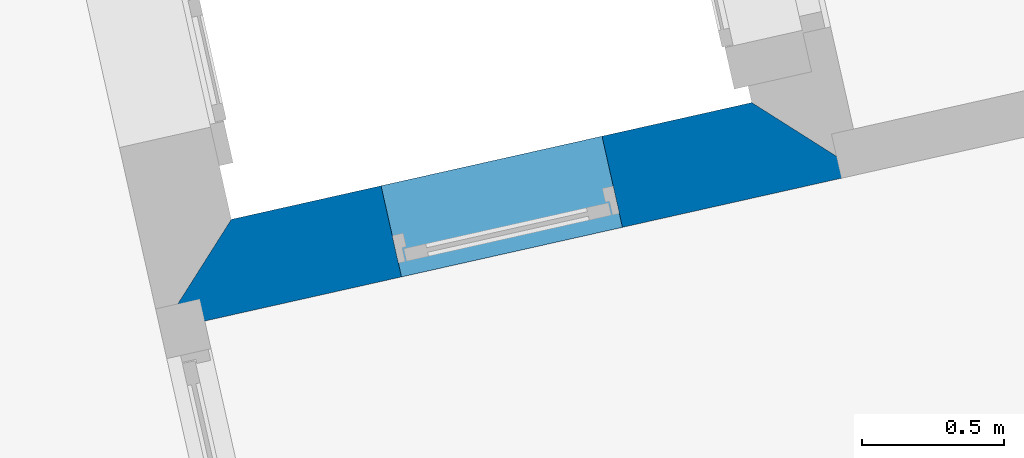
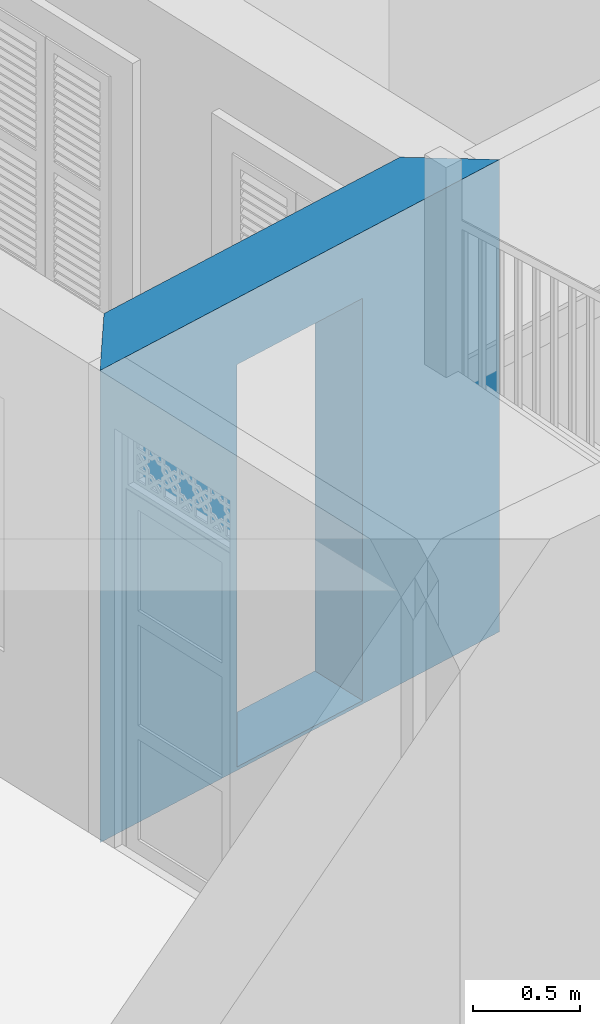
# One storey, part 4 of 13: 1 wall, 1 opening.
"""IFC4 building model written with IfcOpenShell, lengths in metres."""

from ifc_helpers import new_model, si_unit, frame, origin_with_axes, place, context, subcontext, project, spatial, polyline, outline, extrude, material, layer, layer_set, layer_usage, type_object, element, save


model = new_model("IFC4")

# Units and contexts
model_context = context("Model", 3, world=origin_with_axes())
body_context = subcontext(model_context, "Body", "Model", "MODEL_VIEW")
ifc_project = project(units=[si_unit("PLANEANGLEUNIT", "RADIAN"), si_unit("MASSUNIT", "GRAM", prefix="KILO"), si_unit("FORCEUNIT", "NEWTON", prefix="KILO"), si_unit("LENGTHUNIT", "METRE"), si_unit("AREAUNIT", "SQUARE_METRE"), si_unit("VOLUMEUNIT", "CUBIC_METRE")], contexts=[model_context, model_context])

# Site, building, storey
site_placement = place(None, origin_with_axes())
site = spatial("IfcSite", under=ifc_project, at=site_placement, Name="Site plot-10", CompositionType="ELEMENT")
building_placement = place(None, origin_with_axes())
building = spatial("IfcBuilding", under=site, at=building_placement, Name="Building plot-10", CompositionType="ELEMENT")
storey_placement = place(None, origin_with_axes())
storey = spatial("IfcBuildingStorey", under=building, at=storey_placement, Name="plot-10 0", CompositionType="ELEMENT", Elevation=0.0)

# Wall, opening
ifc_material = material(Name="Masonry")
ifc_layer = layer(ifc_material, 0.33, ventilated=False)
ifc_layer_set = layer_set([ifc_layer], Name="exterior_0.08_0.25")
ifc_layer_usage = layer_usage(ifc_layer_set, "AXIS2", "POSITIVE", -0.25)
wall_type = type_object("IfcWallType", Name="exterior_0.08_0.25", PredefinedType="SOLIDWALL", material=ifc_layer_set)
wall_placement = place(storey_placement, frame((-17.7994130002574, 11.3714219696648, 0.0), z_axis=(0.0, 0.0, 1.0), x_axis=(-0.975741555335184, -0.218925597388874, 0.0)))
wall = element("IfcWall", 1, at=wall_placement, inside=storey, type_object=wall_type, material=ifc_layer_usage, Name="exterior", context=body_context, shape_type="SweptSolid", body=[
    extrude(outline(polyline([(-0.0800000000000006, 0.0799999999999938), (0.250000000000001, -0.250000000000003), (2.13436903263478, -0.250000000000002), (2.46436903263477, 0.0799999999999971), (-0.0800000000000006, 0.0799999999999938)])), origin_with_axes(), (0.0, 0.0, 1.0), 2.7),
])
opening_placement = place(wall_placement, frame((0.792184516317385, 0.0, 0.02)))
element("IfcOpeningElement", 2, at=opening_placement, cuts=wall, Name="My Opening", ObjectType="Opening", context=body_context, shape_type="SweptSolid", body=[
    extrude(outline(polyline([(0.0, -0.270000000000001), (0.800000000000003, -0.270000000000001), (0.800000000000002, 1.1), (-4.44089209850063e-16, 1.1), (0.0, -0.270000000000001)])), origin_with_axes(), (0.0, 0.0, 1.0), 2.3),
])

save(model, "model.ifc")
